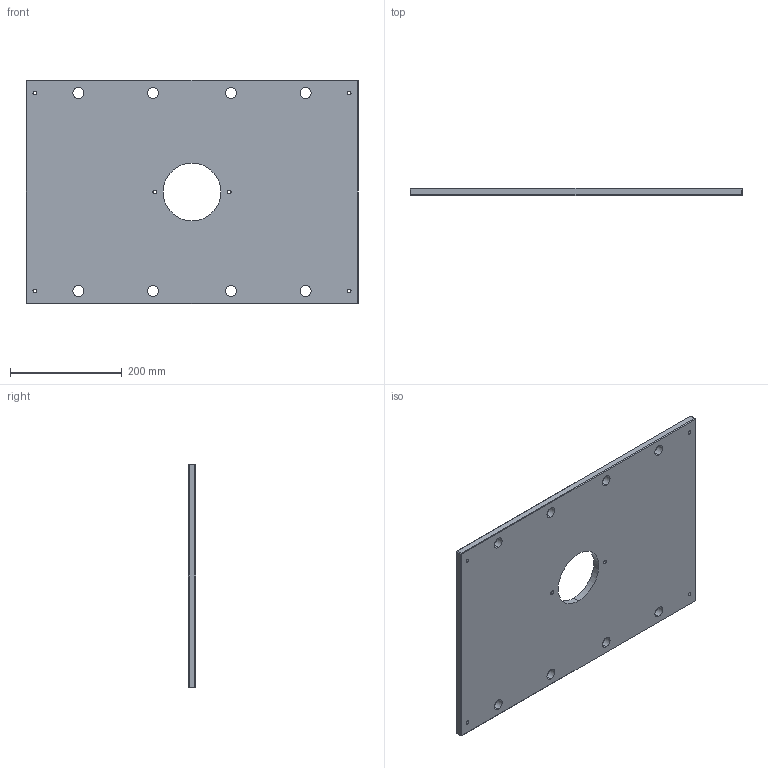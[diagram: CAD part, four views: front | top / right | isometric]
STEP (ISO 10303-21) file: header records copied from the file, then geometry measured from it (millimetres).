
FILE_DESCRIPTION (( 'STEP AP214' ), '1' );
FILE_NAME ('ME-0619-CH-1623.STEP', '2020-02-12T15:53:22', ( '' ), ( '' ), 'SwSTEP 2.0', 'SolidWorks 2018', '' );
FILE_SCHEMA (( 'AUTOMOTIVE_DESIGN' ));
Length unit declared in the file: inch
Products named in the file (1): ME-0619-CH-1623
Bounding box: 593.73 x 12.7 x 400.05 mm (x, y, z)
Volume: 2871616.3 mm3; surface area: 487103.7 mm2
Topology: 1 solids, 1 shells, 68 faces, 162 edges, 96 vertices
Faces by surface type: cylinder 30, plane 26, cone 12
Entity records: 2050 total; most frequent: DIRECTION 372, CARTESIAN_POINT 327, ORIENTED_EDGE 324, EDGE_CURVE 162, AXIS2_PLACEMENT_3D 141, EDGE_LOOP 98, VERTEX_POINT 96, LINE 90
